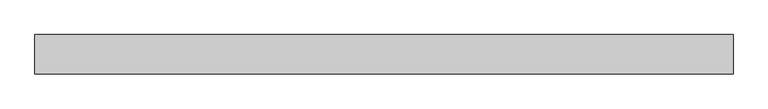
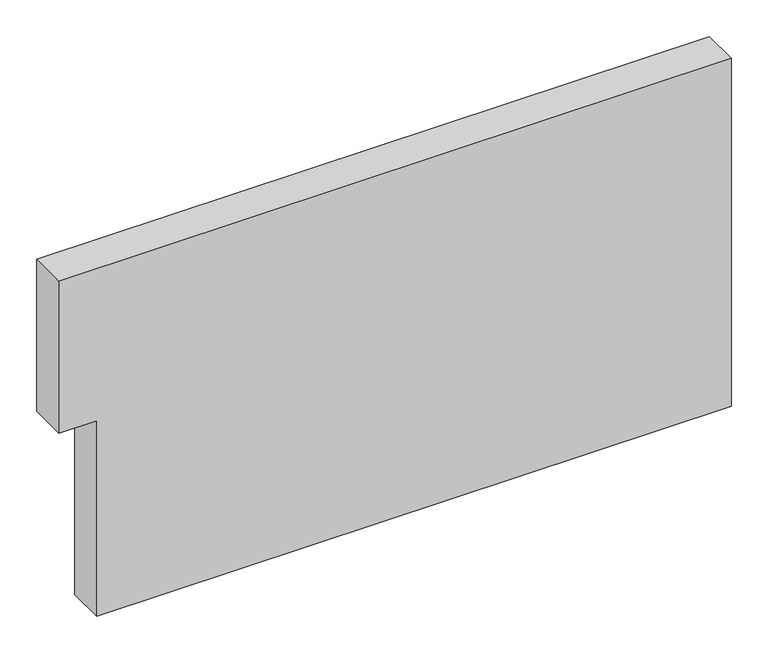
"""IFC4 building model written with IfcOpenShell, lengths in millimetres: plate geometry, Системная панель : Алюкобонд серый."""

from ifc_helpers import new_model, si_unit, frame, origin, place, context, project, spatial, polyline, outline, extrude, source, transform, mapped, element, save


def plate_efe3b8a7(model_context):
    return source(origin(), model_context, "Body", "SweptSolid", [
        extrude(outline(polyline([(0.0, -470.1193333), (0.0, 530.5), (580.0, 530.5), (580.0, -530.5), (326.594082, -530.5), (326.594082, -470.1193333), (0.0, -470.1193333)])), frame((0.0, -49.5, 0.0), z_axis=(0.0, 1.0, 0.0), x_axis=(0.0, 0.0, 1.0)), (0.0, 0.0, 1.0), 60.0),
    ])


if __name__ == "__main__":
    model = new_model("IFC4")
    model_context = context("Model", 3, world=origin())
    ifc_project = project(units=[si_unit("LENGTHUNIT", "METRE", prefix="MILLI")], contexts=[model_context])
    site = spatial("IfcSite", under=ifc_project)
    building = spatial("IfcBuilding", under=site)
    placement = place(None, origin())
    plate_shape = plate_efe3b8a7(model_context)
    element("IfcPlate", 1, ObjectType="Системная панель : Алюкобонд серый", at=placement, inside=building, context=model_context, shape_type="MappedRepresentation", body=[
        mapped(plate_shape, transform((0.0, 0.0, 0.0), x_axis=(1.0, 0.0, 0.0), y_axis=(0.0, 1.0, 0.0), z_axis=(0.0, 0.0, 1.0))),
    ])
    save(model, "model.ifc")
